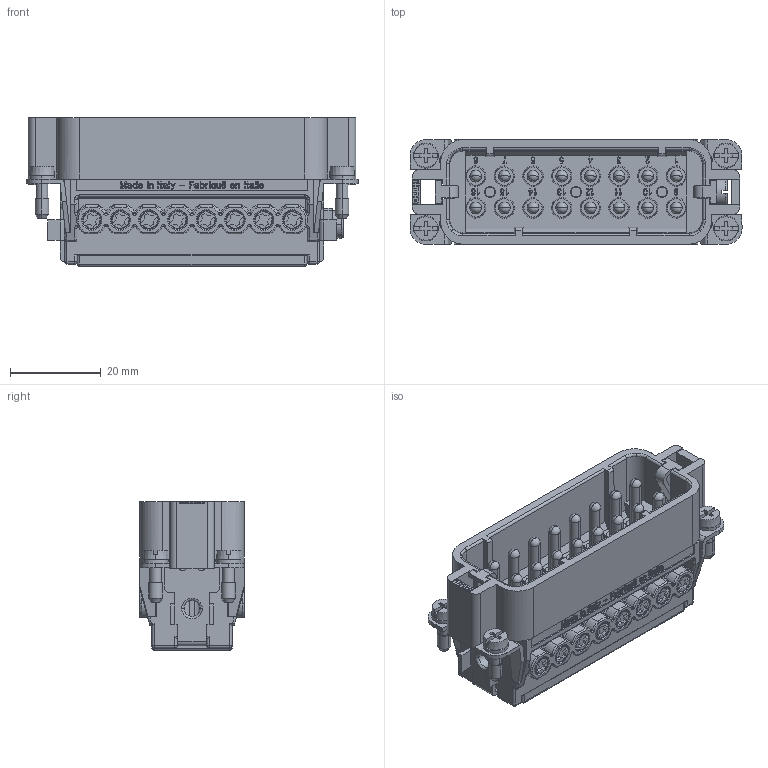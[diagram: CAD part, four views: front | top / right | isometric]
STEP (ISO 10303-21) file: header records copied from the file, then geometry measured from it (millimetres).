
FILE_DESCRIPTION (( 'STEP AP214' ), '1' );
FILE_NAME ('CDAM16.STEP', '2016-08-02T15:48:17', ( 'richard gronsfeld' ), ( '' ), 'SwSTEP 2.0', 'SolidWorks 2007', '' );
FILE_SCHEMA (( 'AUTOMOTIVE_DESIGN' ));
Length unit declared in the file: millimetre
Products named in the file (2): CDAM_16_Défaut; CDAM16
Assembly tree (1 placements, depth 2):
  CDAM16
    CDAM_16_Défaut
Bounding box: 73 x 23 x 32.7 mm (x, y, z)
Volume: 23574.9 mm3; surface area: 24110.3 mm2
Topology: 1 solids, 7 shells, 5523 faces, 15334 edges, 9997 vertices
Faces by surface type: plane 4223, cylinder 638, bspline 490, cone 104, torus 68
Entity records: 250227 total; most frequent: CARTESIAN_POINT 51017, ORIENTED_EDGE 30558, DIRECTION 26185, EDGE_CURVE 15279, VECTOR 12471, LINE 12471, VERTEX_POINT 9997, AXIS2_PLACEMENT_3D 6857
